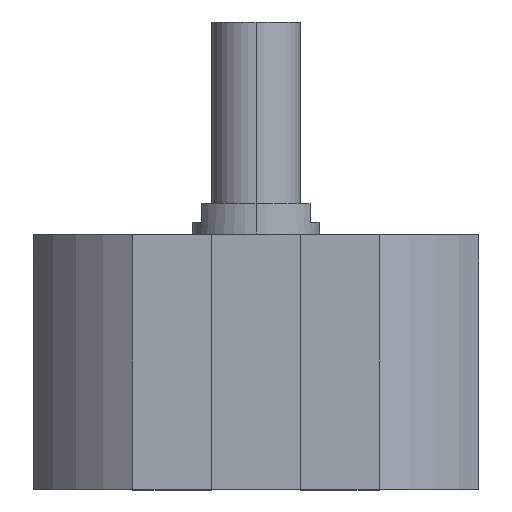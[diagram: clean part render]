
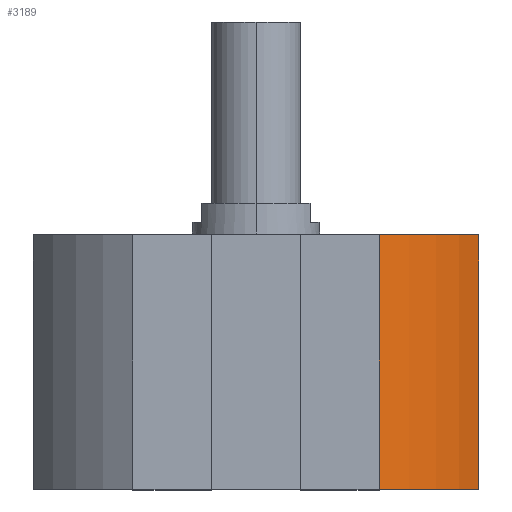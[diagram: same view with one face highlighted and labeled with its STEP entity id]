
A CAD part, top view. The second image highlights one B-rep face of the part: STEP entity #3189.
In plain terms, the highlighted cylindrical face has radius 40 mm (diameter 80 mm), a partial arc.
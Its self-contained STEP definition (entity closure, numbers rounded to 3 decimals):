
#23 = CARTESIAN_POINT ( 'NONE',  ( 35., -40., 19.365 ) ) ;
#142 = EDGE_LOOP ( 'NONE', ( #2550, #1653, #796, #398 ) ) ;
#151 = DIRECTION ( 'NONE',  ( 0., 0., 1. ) ) ;
#398 = ORIENTED_EDGE ( 'NONE', *, *, #1622, .T. ) ;
#425 = VERTEX_POINT ( 'NONE', #2911 ) ;
#459 = AXIS2_PLACEMENT_3D ( 'NONE', #1528, #2555, #1044 ) ;
#595 = AXIS2_PLACEMENT_3D ( 'NONE', #2645, #2439, #151 ) ;
#765 = VERTEX_POINT ( 'NONE', #2157 ) ;
#796 = ORIENTED_EDGE ( 'NONE', *, *, #1672, .T. ) ;
#860 = DIRECTION ( 'NONE',  ( 0., 0., 1. ) ) ;
#896 = DIRECTION ( 'NONE',  ( 0., 1., 0. ) ) ;
#1002 = CIRCLE ( 'NONE', #595, 40. ) ;
#1044 = DIRECTION ( 'NONE',  ( 0., 0., 1. ) ) ;
#1073 = LINE ( 'NONE', #2516, #2779 ) ;
#1267 = VERTEX_POINT ( 'NONE', #2954 ) ;
#1423 = VERTEX_POINT ( 'NONE', #23 ) ;
#1528 = CARTESIAN_POINT ( 'NONE',  ( 0., -40., 0. ) ) ;
#1576 = EDGE_CURVE ( 'NONE', #425, #765, #2273, .T. ) ;
#1622 = EDGE_CURVE ( 'NONE', #1423, #765, #2657, .T. ) ;
#1653 = ORIENTED_EDGE ( 'NONE', *, *, #3186, .F. ) ;
#1672 = EDGE_CURVE ( 'NONE', #1267, #1423, #1002, .T. ) ;
#1692 = CARTESIAN_POINT ( 'NONE',  ( 35., -40., 19.365 ) ) ;
#1760 = CYLINDRICAL_SURFACE ( 'NONE', #459, 40. ) ;
#2027 = DIRECTION ( 'NONE',  ( 0., 1., 0. ) ) ;
#2157 = CARTESIAN_POINT ( 'NONE',  ( 35., 0., 19.365 ) ) ;
#2273 = CIRCLE ( 'NONE', #2913, 40. ) ;
#2365 = CARTESIAN_POINT ( 'NONE',  ( 0., 0., 0. ) ) ;
#2439 = DIRECTION ( 'NONE',  ( 0., 1., 0. ) ) ;
#2516 = CARTESIAN_POINT ( 'NONE',  ( 19.365, -40., 35. ) ) ;
#2535 = FACE_OUTER_BOUND ( 'NONE', #142, .T. ) ;
#2550 = ORIENTED_EDGE ( 'NONE', *, *, #1576, .F. ) ;
#2555 = DIRECTION ( 'NONE',  ( 0., 1., 0. ) ) ;
#2615 = DIRECTION ( 'NONE',  ( 0., 1., 0. ) ) ;
#2645 = CARTESIAN_POINT ( 'NONE',  ( 0., -40., 0. ) ) ;
#2657 = LINE ( 'NONE', #1692, #3032 ) ;
#2779 = VECTOR ( 'NONE', #2027, 1000. ) ;
#2911 = CARTESIAN_POINT ( 'NONE',  ( 19.365, 0., 35. ) ) ;
#2913 = AXIS2_PLACEMENT_3D ( 'NONE', #2365, #2615, #860 ) ;
#2954 = CARTESIAN_POINT ( 'NONE',  ( 19.365, -40., 35. ) ) ;
#3032 = VECTOR ( 'NONE', #896, 1000. ) ;
#3186 = EDGE_CURVE ( 'NONE', #1267, #425, #1073, .T. ) ;
#3189 = ADVANCED_FACE ( 'NONE', ( #2535 ), #1760, .T. ) ;
